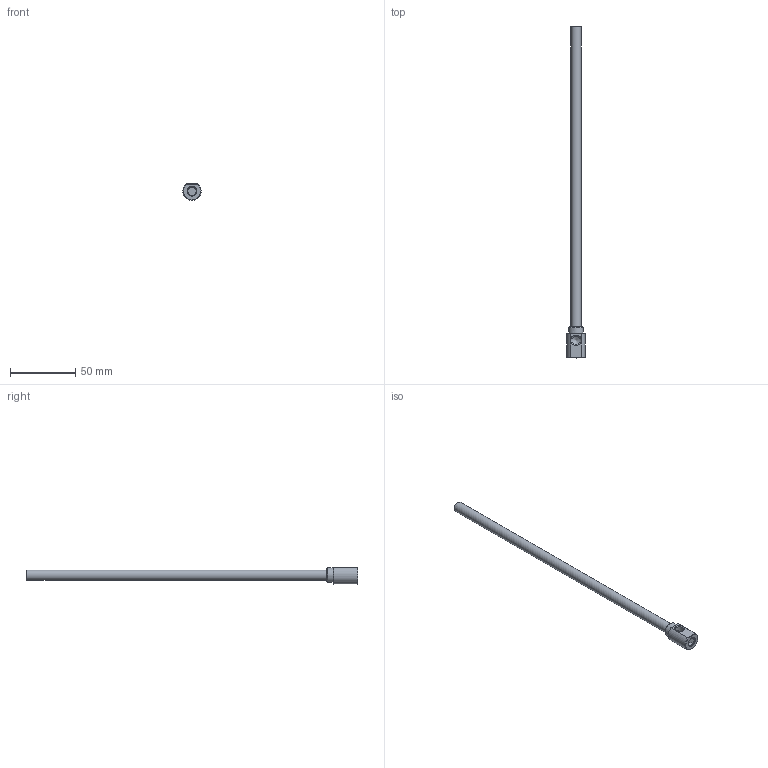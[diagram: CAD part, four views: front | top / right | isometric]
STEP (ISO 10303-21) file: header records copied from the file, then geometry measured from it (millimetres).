
FILE_DESCRIPTION(/* description */ (''),/* implementation_level */ '2;1');
FILE_NAME(/* name */ 'C:/Users/drich/Desktop/EKL16 X 10 v2.step',/* time_stamp */ '2019-11-18T14:37:01-06:00',/* author */ (''),/* organization */ (''),/* preprocessor_version */ 'ST-DEVELOPER v18',/* originating_system */ 'Autodesk Translation Framework v8.12.0.6',/* authorisation */ '');
FILE_SCHEMA (('AUTOMOTIVE_DESIGN { 1 0 10303 214 3 1 1 }'));
Length unit declared in the file: inch
Products named in the file (2): EKL16 X 10; EKL16 X 10_1
Assembly tree (1 placements, depth 2):
  EKL16 X 10
    EKL16 X 10_1
Bounding box: 13.97 x 254 x 12.7 mm (x, y, z)
Volume: 9456.9 mm3; surface area: 10807.5 mm2
Topology: 1 solids, 1 shells, 29 faces, 80 edges, 56 vertices
Faces by surface type: plane 15, cone 8, cylinder 6
Full cylindrical faces by diameter (mm): 4.75 x1, 6.566 x1, 7.62 x1, 7.828 x1, 11.1 x1
Entity records: 1016 total; most frequent: CARTESIAN_POINT 241, ORIENTED_EDGE 158, DIRECTION 148, EDGE_CURVE 79, AXIS2_PLACEMENT_3D 59, VERTEX_POINT 56, EDGE_LOOP 35, LINE 30
